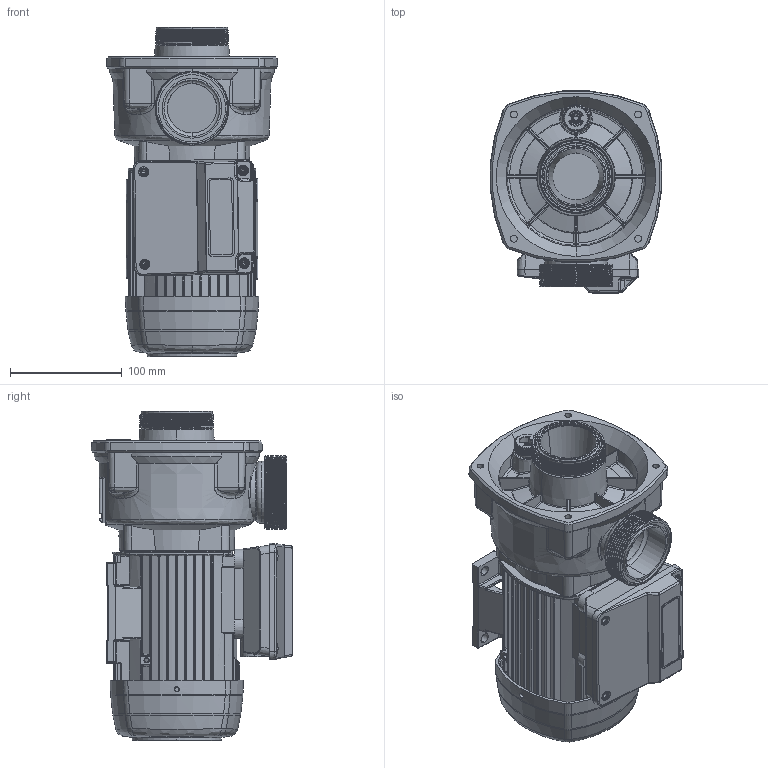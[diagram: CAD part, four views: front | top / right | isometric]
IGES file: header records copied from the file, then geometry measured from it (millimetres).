
Start section:  PTC IGES file: wiper0_50_70_90.igs
Global section: file name: wiper0_50_70_90.igs; native system: Pro/ENGINEER by Parametric Technology Corporation; preprocessor: 2008150; author: usuari; organization: Unknown; date: 20151119.144822; units: millimetre
Bounding box: 153.37 x 180.68 x 295 mm (x, y, z)
Surface area: 356442.2 mm2 (no closed solid volume)
Topology: 0 solids, 0 shells, 3175 faces, 17085 edges, 17077 vertices
Faces by surface type: bspline 1642, revolution 1533
